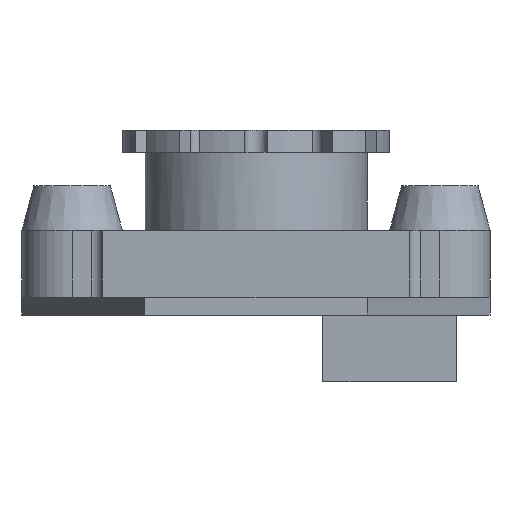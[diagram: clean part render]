
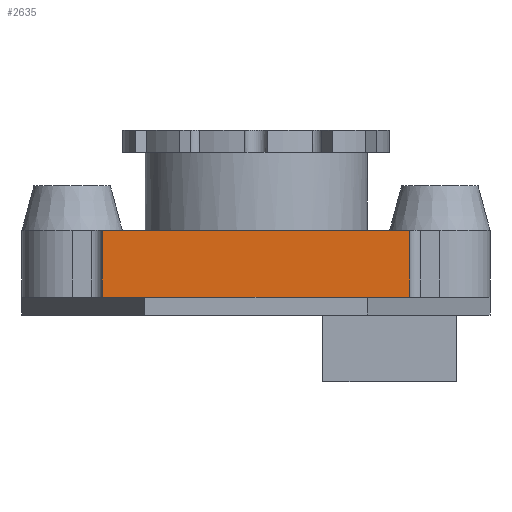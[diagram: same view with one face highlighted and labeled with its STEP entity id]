
A CAD part, front view. The second image highlights one B-rep face of the part: STEP entity #2635.
In plain terms, the highlighted planar face has unit normal (0, -1, 0).
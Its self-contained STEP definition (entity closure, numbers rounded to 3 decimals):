
#67=PLANE('',#2926);
#207=FACE_OUTER_BOUND('',#370,.T.);
#370=EDGE_LOOP('',(#2159,#2160,#2161,#2162));
#575=LINE('',#4348,#824);
#590=LINE('',#4382,#839);
#617=LINE('',#4440,#866);
#618=LINE('',#4441,#867);
#824=VECTOR('',#3473,1000.);
#839=VECTOR('',#3502,1000.);
#866=VECTOR('',#3583,1000.);
#867=VECTOR('',#3584,1000.);
#1290=VERTEX_POINT('',#4345);
#1291=VERTEX_POINT('',#4347);
#1294=VERTEX_POINT('',#4360);
#1303=VERTEX_POINT('',#4380);
#1588=EDGE_CURVE('',#1290,#1291,#575,.T.);
#1607=EDGE_CURVE('',#1294,#1303,#590,.T.);
#1634=EDGE_CURVE('',#1291,#1303,#617,.T.);
#1635=EDGE_CURVE('',#1290,#1294,#618,.T.);
#2159=ORIENTED_EDGE('',*,*,#1607,.T.);
#2160=ORIENTED_EDGE('',*,*,#1634,.F.);
#2161=ORIENTED_EDGE('',*,*,#1588,.F.);
#2162=ORIENTED_EDGE('',*,*,#1635,.T.);
#2635=ADVANCED_FACE('',(#207),#67,.F.);
#2926=AXIS2_PLACEMENT_3D('',#4439,#3581,#3582);
#3473=DIRECTION('',(1.,0.,0.));
#3502=DIRECTION('',(1.,0.,0.));
#3581=DIRECTION('center_axis',(0.,1.,0.));
#3582=DIRECTION('ref_axis',(-1.,0.,0.));
#3583=DIRECTION('',(0.,0.,-1.));
#3584=DIRECTION('',(0.,0.,-1.));
#4345=CARTESIAN_POINT('',(216.418,612.043,-72.2));
#4347=CARTESIAN_POINT('',(230.218,612.043,-72.2));
#4348=CARTESIAN_POINT('',(230.218,612.043,-72.2));
#4360=CARTESIAN_POINT('',(216.418,612.043,-75.2));
#4380=CARTESIAN_POINT('',(230.218,612.043,-75.2));
#4382=CARTESIAN_POINT('',(230.218,612.043,-75.2));
#4439=CARTESIAN_POINT('Origin',(230.218,612.043,-72.2));
#4440=CARTESIAN_POINT('',(230.218,612.043,-72.2));
#4441=CARTESIAN_POINT('',(216.418,612.043,-72.2));
